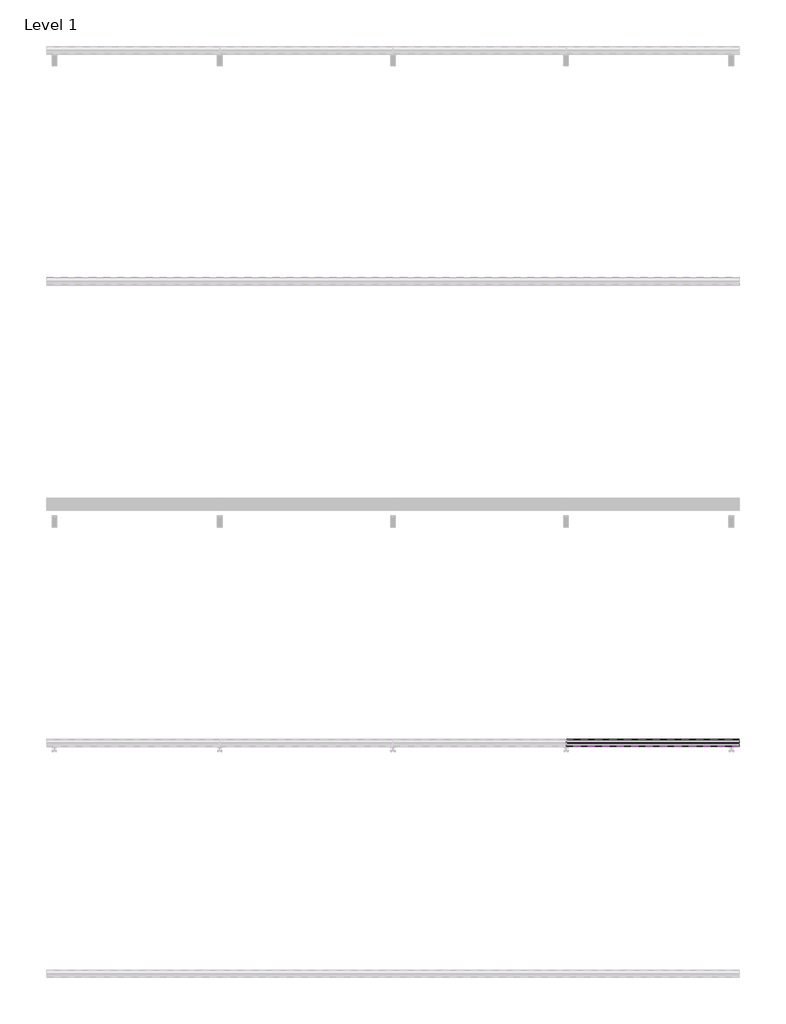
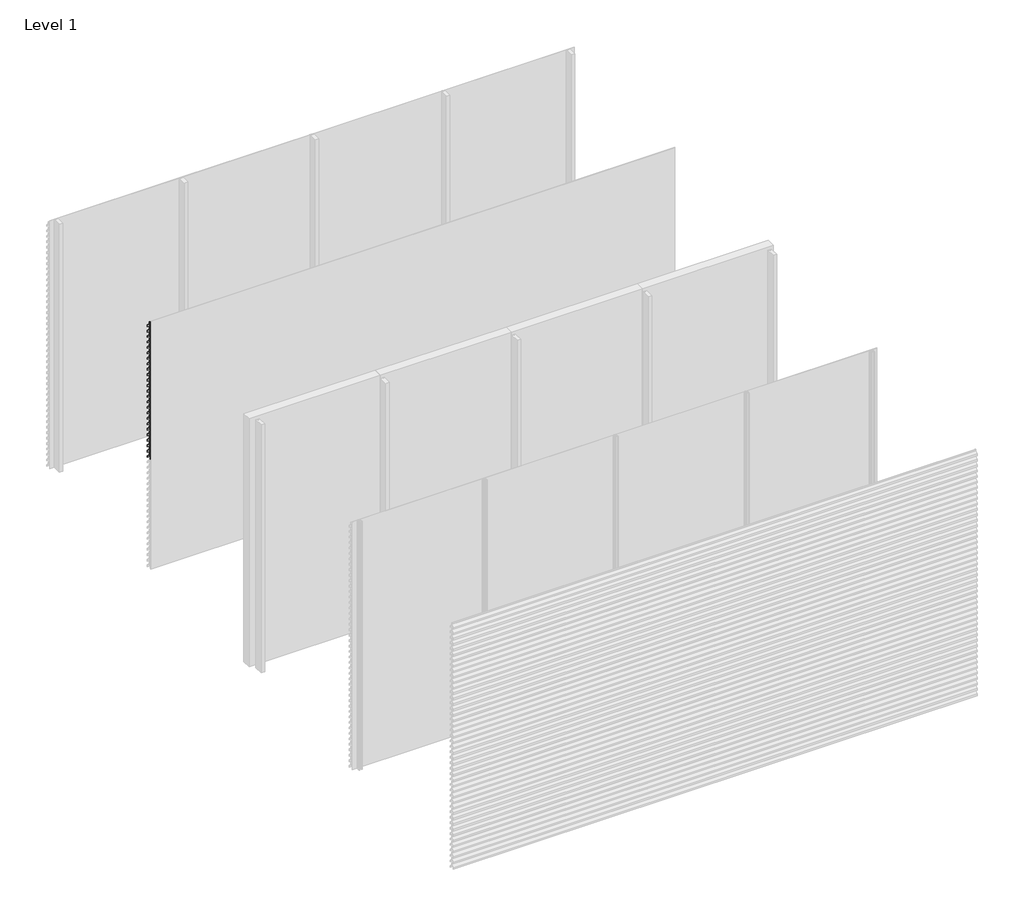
# One storey, part 12 of 35: 69 proxies.
"""IFC4 building model written with IfcOpenShell, lengths in millimetres."""

from ifc_helpers import new_model, si_unit, frame, origin, place, context, project, spatial, polyline, outline, extrude, element, save

model = new_model("IFC4")

# Units and contexts
model_context = context("Model", 3, world=origin())
ifc_project = project(units=[si_unit("LENGTHUNIT", "METRE", prefix="MILLI")], contexts=[model_context])

# Site, building, storey
site = spatial("IfcSite", under=ifc_project)
building = spatial("IfcBuilding", under=site)
storey = spatial("IfcBuildingStorey", under=building, Name="Level 1", Elevation=0.0)

# Proxies
placement = place(None, origin())
element("IfcBuildingElementProxy", 1, Name="Wall Sweeps", at=placement, inside=storey, context=model_context, shape_type="SweptSolid", body=[
    extrude(outline(polyline([(-37936.0, 2916.0), (-37936.0, 2896.0), (-37937.25, 2896.0), (-37937.25, 2915.4342979), (-37968.1138939, 2948.531772), (-37996.7, 2928.4392868), (-37996.7, 2909.6629874), (-37998.0, 2908.8506572), (-37998.0, 2929.1145472), (-37968.537525, 2949.823011), (-37968.537525, 2970.0), (-37967.1772624, 2970.0), (-37967.1772624, 2949.4335207), (-37936.0, 2916.0)])), frame((0.0, 0.0, 0.0), z_axis=(1.0, 0.0, 0.0), x_axis=(0.0, 1.0, 0.0)), (0.0, 0.0, 1.0), 6000.0),
])
element("IfcBuildingElementProxy", 2, Name="Wall Sweeps", at=placement, inside=storey, context=model_context, shape_type="SweptSolid", body=[
    extrude(outline(polyline([(-37936.0, 2850.0), (-37936.0, 2830.0), (-37937.25, 2830.0), (-37937.25, 2849.4342979), (-37968.1138939, 2882.531772), (-37996.7, 2862.4392868), (-37996.7, 2843.6629874), (-37998.0, 2842.8506572), (-37998.0, 2863.1145472), (-37968.537525, 2883.823011), (-37968.537525, 2904.0), (-37967.1772624, 2904.0), (-37967.1772624, 2883.4335207), (-37936.0, 2850.0)])), frame((0.0, 0.0, 0.0), z_axis=(1.0, 0.0, 0.0), x_axis=(0.0, 1.0, 0.0)), (0.0, 0.0, 1.0), 6000.0),
])
element("IfcBuildingElementProxy", 3, Name="Wall Sweeps", at=placement, inside=storey, context=model_context, shape_type="SweptSolid", body=[
    extrude(outline(polyline([(-37936.0, 2784.0), (-37936.0, 2764.0), (-37937.25, 2764.0), (-37937.25, 2783.4342979), (-37968.1138939, 2816.531772), (-37996.7, 2796.4392868), (-37996.7, 2777.6629874), (-37998.0, 2776.8506572), (-37998.0, 2797.1145472), (-37968.537525, 2817.823011), (-37968.537525, 2838.0), (-37967.1772624, 2838.0), (-37967.1772624, 2817.4335207), (-37936.0, 2784.0)])), frame((0.0, 0.0, 0.0), z_axis=(1.0, 0.0, 0.0), x_axis=(0.0, 1.0, 0.0)), (0.0, 0.0, 1.0), 6000.0),
])
element("IfcBuildingElementProxy", 4, Name="Wall Sweeps", at=placement, inside=storey, context=model_context, shape_type="SweptSolid", body=[
    extrude(outline(polyline([(-37936.0, 2718.0), (-37936.0, 2698.0), (-37937.25, 2698.0), (-37937.25, 2717.4342979), (-37968.1138939, 2750.531772), (-37996.7, 2730.4392868), (-37996.7, 2711.6629874), (-37998.0, 2710.8506572), (-37998.0, 2731.1145472), (-37968.537525, 2751.823011), (-37968.537525, 2772.0), (-37967.1772624, 2772.0), (-37967.1772624, 2751.4335207), (-37936.0, 2718.0)])), frame((0.0, 0.0, 0.0), z_axis=(1.0, 0.0, 0.0), x_axis=(0.0, 1.0, 0.0)), (0.0, 0.0, 1.0), 6000.0),
])
element("IfcBuildingElementProxy", 5, Name="Wall Sweeps", at=placement, inside=storey, context=model_context, shape_type="SweptSolid", body=[
    extrude(outline(polyline([(-37936.0, 2652.0), (-37936.0, 2632.0), (-37937.25, 2632.0), (-37937.25, 2651.4342979), (-37968.1138939, 2684.531772), (-37996.7, 2664.4392868), (-37996.7, 2645.6629874), (-37998.0, 2644.8506572), (-37998.0, 2665.1145472), (-37968.537525, 2685.823011), (-37968.537525, 2706.0), (-37967.1772624, 2706.0), (-37967.1772624, 2685.4335207), (-37936.0, 2652.0)])), frame((0.0, 0.0, 0.0), z_axis=(1.0, 0.0, 0.0), x_axis=(0.0, 1.0, 0.0)), (0.0, 0.0, 1.0), 6000.0),
])
element("IfcBuildingElementProxy", 6, Name="Wall Sweeps", at=placement, inside=storey, context=model_context, shape_type="SweptSolid", body=[
    extrude(outline(polyline([(-37936.0, 2586.0), (-37936.0, 2566.0), (-37937.25, 2566.0), (-37937.25, 2585.4342979), (-37968.1138939, 2618.531772), (-37996.7, 2598.4392868), (-37996.7, 2579.6629874), (-37998.0, 2578.8506572), (-37998.0, 2599.1145472), (-37968.537525, 2619.823011), (-37968.537525, 2640.0), (-37967.1772624, 2640.0), (-37967.1772624, 2619.4335207), (-37936.0, 2586.0)])), frame((0.0, 0.0, 0.0), z_axis=(1.0, 0.0, 0.0), x_axis=(0.0, 1.0, 0.0)), (0.0, 0.0, 1.0), 6000.0),
])
element("IfcBuildingElementProxy", 7, Name="Wall Sweeps", at=placement, inside=storey, context=model_context, shape_type="SweptSolid", body=[
    extrude(outline(polyline([(-37936.0, 2520.0), (-37936.0, 2500.0), (-37937.25, 2500.0), (-37937.25, 2519.4342979), (-37968.1138939, 2552.531772), (-37996.7, 2532.4392868), (-37996.7, 2513.6629874), (-37998.0, 2512.8506572), (-37998.0, 2533.1145472), (-37968.537525, 2553.823011), (-37968.537525, 2574.0), (-37967.1772624, 2574.0), (-37967.1772624, 2553.4335207), (-37936.0, 2520.0)])), frame((0.0, 0.0, 0.0), z_axis=(1.0, 0.0, 0.0), x_axis=(0.0, 1.0, 0.0)), (0.0, 0.0, 1.0), 6000.0),
])
element("IfcBuildingElementProxy", 8, Name="Wall Sweeps", at=placement, inside=storey, context=model_context, shape_type="SweptSolid", body=[
    extrude(outline(polyline([(-37936.0, 2454.0), (-37936.0, 2434.0), (-37937.25, 2434.0), (-37937.25, 2453.4342979), (-37968.1138939, 2486.531772), (-37996.7, 2466.4392868), (-37996.7, 2447.6629874), (-37998.0, 2446.8506572), (-37998.0, 2467.1145472), (-37968.537525, 2487.823011), (-37968.537525, 2508.0), (-37967.1772624, 2508.0), (-37967.1772624, 2487.4335207), (-37936.0, 2454.0)])), frame((0.0, 0.0, 0.0), z_axis=(1.0, 0.0, 0.0), x_axis=(0.0, 1.0, 0.0)), (0.0, 0.0, 1.0), 6000.0),
])
element("IfcBuildingElementProxy", 9, Name="Wall Sweeps", at=placement, inside=storey, context=model_context, shape_type="SweptSolid", body=[
    extrude(outline(polyline([(-37936.0, 2388.0), (-37936.0, 2368.0), (-37937.25, 2368.0), (-37937.25, 2387.4342979), (-37968.1138939, 2420.531772), (-37996.7, 2400.4392868), (-37996.7, 2381.6629874), (-37998.0, 2380.8506572), (-37998.0, 2401.1145472), (-37968.537525, 2421.823011), (-37968.537525, 2442.0), (-37967.1772624, 2442.0), (-37967.1772624, 2421.4335207), (-37936.0, 2388.0)])), frame((0.0, 0.0, 0.0), z_axis=(1.0, 0.0, 0.0), x_axis=(0.0, 1.0, 0.0)), (0.0, 0.0, 1.0), 6000.0),
])
element("IfcBuildingElementProxy", 10, Name="Wall Sweeps", at=placement, inside=storey, context=model_context, shape_type="SweptSolid", body=[
    extrude(outline(polyline([(-37936.0, 2322.0), (-37936.0, 2302.0), (-37937.25, 2302.0), (-37937.25, 2321.4342979), (-37968.1138939, 2354.531772), (-37996.7, 2334.4392868), (-37996.7, 2315.6629874), (-37998.0, 2314.8506572), (-37998.0, 2335.1145472), (-37968.537525, 2355.823011), (-37968.537525, 2376.0), (-37967.1772624, 2376.0), (-37967.1772624, 2355.4335207), (-37936.0, 2322.0)])), frame((0.0, 0.0, 0.0), z_axis=(1.0, 0.0, 0.0), x_axis=(0.0, 1.0, 0.0)), (0.0, 0.0, 1.0), 6000.0),
])
element("IfcBuildingElementProxy", 11, Name="Wall Sweeps", at=placement, inside=storey, context=model_context, shape_type="SweptSolid", body=[
    extrude(outline(polyline([(-37936.0, 2256.0), (-37936.0, 2236.0), (-37937.25, 2236.0), (-37937.25, 2255.4342979), (-37968.1138939, 2288.531772), (-37996.7, 2268.4392868), (-37996.7, 2249.6629874), (-37998.0, 2248.8506572), (-37998.0, 2269.1145472), (-37968.537525, 2289.823011), (-37968.537525, 2310.0), (-37967.1772624, 2310.0), (-37967.1772624, 2289.4335207), (-37936.0, 2256.0)])), frame((0.0, 0.0, 0.0), z_axis=(1.0, 0.0, 0.0), x_axis=(0.0, 1.0, 0.0)), (0.0, 0.0, 1.0), 6000.0),
])
element("IfcBuildingElementProxy", 12, Name="Wall Sweeps", at=placement, inside=storey, context=model_context, shape_type="SweptSolid", body=[
    extrude(outline(polyline([(-37936.0, 2190.0), (-37936.0, 2170.0), (-37937.25, 2170.0), (-37937.25, 2189.4342979), (-37968.1138939, 2222.531772), (-37996.7, 2202.4392868), (-37996.7, 2183.6629874), (-37998.0, 2182.8506572), (-37998.0, 2203.1145472), (-37968.537525, 2223.823011), (-37968.537525, 2244.0), (-37967.1772624, 2244.0), (-37967.1772624, 2223.4335207), (-37936.0, 2190.0)])), frame((0.0, 0.0, 0.0), z_axis=(1.0, 0.0, 0.0), x_axis=(0.0, 1.0, 0.0)), (0.0, 0.0, 1.0), 6000.0),
])
element("IfcBuildingElementProxy", 13, Name="Wall Sweeps", at=placement, inside=storey, context=model_context, shape_type="SweptSolid", body=[
    extrude(outline(polyline([(-37936.0, 2124.0), (-37936.0, 2104.0), (-37937.25, 2104.0), (-37937.25, 2123.4342979), (-37968.1138939, 2156.531772), (-37996.7, 2136.4392868), (-37996.7, 2117.6629874), (-37998.0, 2116.8506572), (-37998.0, 2137.1145472), (-37968.537525, 2157.823011), (-37968.537525, 2178.0), (-37967.1772624, 2178.0), (-37967.1772624, 2157.4335207), (-37936.0, 2124.0)])), frame((0.0, 0.0, 0.0), z_axis=(1.0, 0.0, 0.0), x_axis=(0.0, 1.0, 0.0)), (0.0, 0.0, 1.0), 6000.0),
])
element("IfcBuildingElementProxy", 14, Name="Wall Sweeps", at=placement, inside=storey, context=model_context, shape_type="SweptSolid", body=[
    extrude(outline(polyline([(-37936.0, 2058.0), (-37936.0, 2038.0), (-37937.25, 2038.0), (-37937.25, 2057.4342979), (-37968.1138939, 2090.531772), (-37996.7, 2070.4392868), (-37996.7, 2051.6629874), (-37998.0, 2050.8506572), (-37998.0, 2071.1145472), (-37968.537525, 2091.823011), (-37968.537525, 2112.0), (-37967.1772624, 2112.0), (-37967.1772624, 2091.4335207), (-37936.0, 2058.0)])), frame((0.0, 0.0, 0.0), z_axis=(1.0, 0.0, 0.0), x_axis=(0.0, 1.0, 0.0)), (0.0, 0.0, 1.0), 6000.0),
])
element("IfcBuildingElementProxy", 15, Name="Wall Sweeps", at=placement, inside=storey, context=model_context, shape_type="SweptSolid", body=[
    extrude(outline(polyline([(-37936.0, 1992.0), (-37936.0, 1972.0), (-37937.25, 1972.0), (-37937.25, 1991.4342979), (-37968.1138939, 2024.531772), (-37996.7, 2004.4392868), (-37996.7, 1985.6629874), (-37998.0, 1984.8506572), (-37998.0, 2005.1145472), (-37968.537525, 2025.823011), (-37968.537525, 2046.0), (-37967.1772624, 2046.0), (-37967.1772624, 2025.4335207), (-37936.0, 1992.0)])), frame((0.0, 0.0, 0.0), z_axis=(1.0, 0.0, 0.0), x_axis=(0.0, 1.0, 0.0)), (0.0, 0.0, 1.0), 6000.0),
])
element("IfcBuildingElementProxy", 16, Name="Wall Sweeps", at=placement, inside=storey, context=model_context, shape_type="SweptSolid", body=[
    extrude(outline(polyline([(-37936.0, 1926.0), (-37936.0, 1906.0), (-37937.25, 1906.0), (-37937.25, 1925.4342979), (-37968.1138939, 1958.531772), (-37996.7, 1938.4392868), (-37996.7, 1919.6629874), (-37998.0, 1918.8506572), (-37998.0, 1939.1145472), (-37968.537525, 1959.823011), (-37968.537525, 1980.0), (-37967.1772624, 1980.0), (-37967.1772624, 1959.4335207), (-37936.0, 1926.0)])), frame((0.0, 0.0, 0.0), z_axis=(1.0, 0.0, 0.0), x_axis=(0.0, 1.0, 0.0)), (0.0, 0.0, 1.0), 6000.0),
])
element("IfcBuildingElementProxy", 17, Name="Wall Sweeps", at=placement, inside=storey, context=model_context, shape_type="SweptSolid", body=[
    extrude(outline(polyline([(-37936.0, 1860.0), (-37936.0, 1840.0), (-37937.25, 1840.0), (-37937.25, 1859.4342979), (-37968.1138939, 1892.531772), (-37996.7, 1872.4392868), (-37996.7, 1853.6629874), (-37998.0, 1852.8506572), (-37998.0, 1873.1145472), (-37968.537525, 1893.823011), (-37968.537525, 1914.0), (-37967.1772624, 1914.0), (-37967.1772624, 1893.4335207), (-37936.0, 1860.0)])), frame((0.0, 0.0, 0.0), z_axis=(1.0, 0.0, 0.0), x_axis=(0.0, 1.0, 0.0)), (0.0, 0.0, 1.0), 6000.0),
])
element("IfcBuildingElementProxy", 18, Name="Wall Sweeps", at=placement, inside=storey, context=model_context, shape_type="SweptSolid", body=[
    extrude(outline(polyline([(-37936.0, 1794.0), (-37936.0, 1774.0), (-37937.25, 1774.0), (-37937.25, 1793.4342979), (-37968.1138939, 1826.531772), (-37996.7, 1806.4392868), (-37996.7, 1787.6629874), (-37998.0, 1786.8506572), (-37998.0, 1807.1145472), (-37968.537525, 1827.823011), (-37968.537525, 1848.0), (-37967.1772624, 1848.0), (-37967.1772624, 1827.4335207), (-37936.0, 1794.0)])), frame((0.0, 0.0, 0.0), z_axis=(1.0, 0.0, 0.0), x_axis=(0.0, 1.0, 0.0)), (0.0, 0.0, 1.0), 6000.0),
])
element("IfcBuildingElementProxy", 19, Name="Wall Sweeps", at=placement, inside=storey, context=model_context, shape_type="SweptSolid", body=[
    extrude(outline(polyline([(-37936.0, 1728.0), (-37936.0, 1708.0), (-37937.25, 1708.0), (-37937.25, 1727.4342979), (-37968.1138939, 1760.531772), (-37996.7, 1740.4392868), (-37996.7, 1721.6629874), (-37998.0, 1720.8506572), (-37998.0, 1741.1145472), (-37968.537525, 1761.823011), (-37968.537525, 1782.0), (-37967.1772624, 1782.0), (-37967.1772624, 1761.4335207), (-37936.0, 1728.0)])), frame((0.0, 0.0, 0.0), z_axis=(1.0, 0.0, 0.0), x_axis=(0.0, 1.0, 0.0)), (0.0, 0.0, 1.0), 6000.0),
])
element("IfcBuildingElementProxy", 20, Name="Wall Sweeps", at=placement, inside=storey, context=model_context, shape_type="SweptSolid", body=[
    extrude(outline(polyline([(-37936.0, 1662.0), (-37936.0, 1642.0), (-37937.25, 1642.0), (-37937.25, 1661.4342979), (-37968.1138939, 1694.531772), (-37996.7, 1674.4392868), (-37996.7, 1655.6629874), (-37998.0, 1654.8506572), (-37998.0, 1675.1145472), (-37968.537525, 1695.823011), (-37968.537525, 1716.0), (-37967.1772624, 1716.0), (-37967.1772624, 1695.4335207), (-37936.0, 1662.0)])), frame((0.0, 0.0, 0.0), z_axis=(1.0, 0.0, 0.0), x_axis=(0.0, 1.0, 0.0)), (0.0, 0.0, 1.0), 6000.0),
])
element("IfcBuildingElementProxy", 21, Name="Wall Sweeps", at=placement, inside=storey, context=model_context, shape_type="SweptSolid", body=[
    extrude(outline(polyline([(-37936.0, 1596.0), (-37936.0, 1576.0), (-37937.25, 1576.0), (-37937.25, 1595.4342979), (-37968.1138939, 1628.531772), (-37996.7, 1608.4392868), (-37996.7, 1589.6629874), (-37998.0, 1588.8506572), (-37998.0, 1609.1145472), (-37968.537525, 1629.823011), (-37968.537525, 1650.0), (-37967.1772624, 1650.0), (-37967.1772624, 1629.4335207), (-37936.0, 1596.0)])), frame((0.0, 0.0, 0.0), z_axis=(1.0, 0.0, 0.0), x_axis=(0.0, 1.0, 0.0)), (0.0, 0.0, 1.0), 6000.0),
])
element("IfcBuildingElementProxy", 22, Name="Wall Sweeps", at=placement, inside=storey, context=model_context, shape_type="SweptSolid", body=[
    extrude(outline(polyline([(-37936.0, 1530.0), (-37936.0, 1510.0), (-37937.25, 1510.0), (-37937.25, 1529.4342979), (-37968.1138939, 1562.531772), (-37996.7, 1542.4392868), (-37996.7, 1523.6629874), (-37998.0, 1522.8506572), (-37998.0, 1543.1145472), (-37968.537525, 1563.823011), (-37968.537525, 1584.0), (-37967.1772624, 1584.0), (-37967.1772624, 1563.4335207), (-37936.0, 1530.0)])), frame((0.0, 0.0, 0.0), z_axis=(1.0, 0.0, 0.0), x_axis=(0.0, 1.0, 0.0)), (0.0, 0.0, 1.0), 6000.0),
])
element("IfcBuildingElementProxy", 23, Name="Wall Sweeps", at=placement, inside=storey, context=model_context, shape_type="SweptSolid", body=[
    extrude(outline(polyline([(-37936.0, 1464.0), (-37936.0, 1444.0), (-37937.25, 1444.0), (-37937.25, 1463.4342979), (-37968.1138939, 1496.531772), (-37996.7, 1476.4392868), (-37996.7, 1457.6629874), (-37998.0, 1456.8506572), (-37998.0, 1477.1145472), (-37968.537525, 1497.823011), (-37968.537525, 1518.0), (-37967.1772624, 1518.0), (-37967.1772624, 1497.4335207), (-37936.0, 1464.0)])), frame((0.0, 0.0, 0.0), z_axis=(1.0, 0.0, 0.0), x_axis=(0.0, 1.0, 0.0)), (0.0, 0.0, 1.0), 6000.0),
])
element("IfcBuildingElementProxy", 24, Name="Wall Sweeps", at=placement, inside=storey, context=model_context, shape_type="SweptSolid", body=[
    extrude(outline(polyline([(-37936.0, 1398.0), (-37936.0, 1378.0), (-37937.25, 1378.0), (-37937.25, 1397.4342979), (-37968.1138939, 1430.531772), (-37996.7, 1410.4392868), (-37996.7, 1391.6629874), (-37998.0, 1390.8506572), (-37998.0, 1411.1145472), (-37968.537525, 1431.823011), (-37968.537525, 1452.0), (-37967.1772624, 1452.0), (-37967.1772624, 1431.4335207), (-37936.0, 1398.0)])), frame((0.0, 0.0, 0.0), z_axis=(1.0, 0.0, 0.0), x_axis=(0.0, 1.0, 0.0)), (0.0, 0.0, 1.0), 6000.0),
])
element("IfcBuildingElementProxy", 25, Name="Wall Sweeps", at=placement, inside=storey, context=model_context, shape_type="SweptSolid", body=[
    extrude(outline(polyline([(-37936.0, 1332.0), (-37936.0, 1312.0), (-37937.25, 1312.0), (-37937.25, 1331.4342979), (-37968.1138939, 1364.531772), (-37996.7, 1344.4392868), (-37996.7, 1325.6629874), (-37998.0, 1324.8506572), (-37998.0, 1345.1145472), (-37968.537525, 1365.823011), (-37968.537525, 1386.0), (-37967.1772624, 1386.0), (-37967.1772624, 1365.4335207), (-37936.0, 1332.0)])), frame((0.0, 0.0, 0.0), z_axis=(1.0, 0.0, 0.0), x_axis=(0.0, 1.0, 0.0)), (0.0, 0.0, 1.0), 6000.0),
])
element("IfcBuildingElementProxy", 26, Name="Wall Sweeps", at=placement, inside=storey, context=model_context, shape_type="SweptSolid", body=[
    extrude(outline(polyline([(-41936.0, 2850.0), (-41936.0, 2830.0), (-41937.25, 2830.0), (-41937.25, 2849.4342979), (-41968.1138939, 2882.531772), (-41996.7, 2862.4392868), (-41996.7, 2843.6629874), (-41998.0, 2842.8506572), (-41998.0, 2863.1145472), (-41968.537525, 2883.823011), (-41968.537525, 2904.0), (-41967.1772624, 2904.0), (-41967.1772624, 2883.4335207), (-41936.0, 2850.0)])), frame((4500.0, 0.0, 0.0), z_axis=(1.0, 0.0, 0.0), x_axis=(0.0, 1.0, 0.0)), (0.0, 0.0, 1.0), 1500.0),
])
element("IfcBuildingElementProxy", 27, Name="Wall Sweeps", at=placement, inside=storey, context=model_context, shape_type="SweptSolid", body=[
    extrude(outline(polyline([(-41936.0, 2784.0), (-41936.0, 2764.0), (-41937.25, 2764.0), (-41937.25, 2783.4342979), (-41968.1138939, 2816.531772), (-41996.7, 2796.4392868), (-41996.7, 2777.6629874), (-41998.0, 2776.8506572), (-41998.0, 2797.1145472), (-41968.537525, 2817.823011), (-41968.537525, 2838.0), (-41967.1772624, 2838.0), (-41967.1772624, 2817.4335207), (-41936.0, 2784.0)])), frame((4500.0, 0.0, 0.0), z_axis=(1.0, 0.0, 0.0), x_axis=(0.0, 1.0, 0.0)), (0.0, 0.0, 1.0), 1500.0),
])
element("IfcBuildingElementProxy", 28, Name="Wall Sweeps", at=placement, inside=storey, context=model_context, shape_type="SweptSolid", body=[
    extrude(outline(polyline([(-41936.0, 2718.0), (-41936.0, 2698.0), (-41937.25, 2698.0), (-41937.25, 2717.4342979), (-41968.1138939, 2750.531772), (-41996.7, 2730.4392868), (-41996.7, 2711.6629874), (-41998.0, 2710.8506572), (-41998.0, 2731.1145472), (-41968.537525, 2751.823011), (-41968.537525, 2772.0), (-41967.1772624, 2772.0), (-41967.1772624, 2751.4335207), (-41936.0, 2718.0)])), frame((4500.0, 0.0, 0.0), z_axis=(1.0, 0.0, 0.0), x_axis=(0.0, 1.0, 0.0)), (0.0, 0.0, 1.0), 1500.0),
])
element("IfcBuildingElementProxy", 29, Name="Wall Sweeps", at=placement, inside=storey, context=model_context, shape_type="SweptSolid", body=[
    extrude(outline(polyline([(-41936.0, 2652.0), (-41936.0, 2632.0), (-41937.25, 2632.0), (-41937.25, 2651.4342979), (-41968.1138939, 2684.531772), (-41996.7, 2664.4392868), (-41996.7, 2645.6629874), (-41998.0, 2644.8506572), (-41998.0, 2665.1145472), (-41968.537525, 2685.823011), (-41968.537525, 2706.0), (-41967.1772624, 2706.0), (-41967.1772624, 2685.4335207), (-41936.0, 2652.0)])), frame((4500.0, 0.0, 0.0), z_axis=(1.0, 0.0, 0.0), x_axis=(0.0, 1.0, 0.0)), (0.0, 0.0, 1.0), 1500.0),
])
element("IfcBuildingElementProxy", 30, Name="Wall Sweeps", at=placement, inside=storey, context=model_context, shape_type="SweptSolid", body=[
    extrude(outline(polyline([(-41936.0, 2586.0), (-41936.0, 2566.0), (-41937.25, 2566.0), (-41937.25, 2585.4342979), (-41968.1138939, 2618.531772), (-41996.7, 2598.4392868), (-41996.7, 2579.6629874), (-41998.0, 2578.8506572), (-41998.0, 2599.1145472), (-41968.537525, 2619.823011), (-41968.537525, 2640.0), (-41967.1772624, 2640.0), (-41967.1772624, 2619.4335207), (-41936.0, 2586.0)])), frame((4500.0, 0.0, 0.0), z_axis=(1.0, 0.0, 0.0), x_axis=(0.0, 1.0, 0.0)), (0.0, 0.0, 1.0), 1500.0),
])
element("IfcBuildingElementProxy", 31, Name="Wall Sweeps", at=placement, inside=storey, context=model_context, shape_type="SweptSolid", body=[
    extrude(outline(polyline([(-41936.0, 2520.0), (-41936.0, 2500.0), (-41937.25, 2500.0), (-41937.25, 2519.4342979), (-41968.1138939, 2552.531772), (-41996.7, 2532.4392868), (-41996.7, 2513.6629874), (-41998.0, 2512.8506572), (-41998.0, 2533.1145472), (-41968.537525, 2553.823011), (-41968.537525, 2574.0), (-41967.1772624, 2574.0), (-41967.1772624, 2553.4335207), (-41936.0, 2520.0)])), frame((4500.0, 0.0, 0.0), z_axis=(1.0, 0.0, 0.0), x_axis=(0.0, 1.0, 0.0)), (0.0, 0.0, 1.0), 1500.0),
])
element("IfcBuildingElementProxy", 32, Name="Wall Sweeps", at=placement, inside=storey, context=model_context, shape_type="SweptSolid", body=[
    extrude(outline(polyline([(-41936.0, 2454.0), (-41936.0, 2434.0), (-41937.25, 2434.0), (-41937.25, 2453.4342979), (-41968.1138939, 2486.531772), (-41996.7, 2466.4392868), (-41996.7, 2447.6629874), (-41998.0, 2446.8506572), (-41998.0, 2467.1145472), (-41968.537525, 2487.823011), (-41968.537525, 2508.0), (-41967.1772624, 2508.0), (-41967.1772624, 2487.4335207), (-41936.0, 2454.0)])), frame((4500.0, 0.0, 0.0), z_axis=(1.0, 0.0, 0.0), x_axis=(0.0, 1.0, 0.0)), (0.0, 0.0, 1.0), 1500.0),
])
element("IfcBuildingElementProxy", 33, Name="Wall Sweeps", at=placement, inside=storey, context=model_context, shape_type="SweptSolid", body=[
    extrude(outline(polyline([(-41936.0, 2388.0), (-41936.0, 2368.0), (-41937.25, 2368.0), (-41937.25, 2387.4342979), (-41968.1138939, 2420.531772), (-41996.7, 2400.4392868), (-41996.7, 2381.6629874), (-41998.0, 2380.8506572), (-41998.0, 2401.1145472), (-41968.537525, 2421.823011), (-41968.537525, 2442.0), (-41967.1772624, 2442.0), (-41967.1772624, 2421.4335207), (-41936.0, 2388.0)])), frame((4500.0, 0.0, 0.0), z_axis=(1.0, 0.0, 0.0), x_axis=(0.0, 1.0, 0.0)), (0.0, 0.0, 1.0), 1500.0),
])
element("IfcBuildingElementProxy", 34, Name="Wall Sweeps", at=placement, inside=storey, context=model_context, shape_type="SweptSolid", body=[
    extrude(outline(polyline([(-41936.0, 2322.0), (-41936.0, 2302.0), (-41937.25, 2302.0), (-41937.25, 2321.4342979), (-41968.1138939, 2354.531772), (-41996.7, 2334.4392868), (-41996.7, 2315.6629874), (-41998.0, 2314.8506572), (-41998.0, 2335.1145472), (-41968.537525, 2355.823011), (-41968.537525, 2376.0), (-41967.1772624, 2376.0), (-41967.1772624, 2355.4335207), (-41936.0, 2322.0)])), frame((4500.0, 0.0, 0.0), z_axis=(1.0, 0.0, 0.0), x_axis=(0.0, 1.0, 0.0)), (0.0, 0.0, 1.0), 1500.0),
])
element("IfcBuildingElementProxy", 35, Name="Wall Sweeps", at=placement, inside=storey, context=model_context, shape_type="SweptSolid", body=[
    extrude(outline(polyline([(-41936.0, 2256.0), (-41936.0, 2236.0), (-41937.25, 2236.0), (-41937.25, 2255.4342979), (-41968.1138939, 2288.531772), (-41996.7, 2268.4392868), (-41996.7, 2249.6629874), (-41998.0, 2248.8506572), (-41998.0, 2269.1145472), (-41968.537525, 2289.823011), (-41968.537525, 2310.0), (-41967.1772624, 2310.0), (-41967.1772624, 2289.4335207), (-41936.0, 2256.0)])), frame((4500.0, 0.0, 0.0), z_axis=(1.0, 0.0, 0.0), x_axis=(0.0, 1.0, 0.0)), (0.0, 0.0, 1.0), 1500.0),
])
element("IfcBuildingElementProxy", 36, Name="Wall Sweeps", at=placement, inside=storey, context=model_context, shape_type="SweptSolid", body=[
    extrude(outline(polyline([(-41936.0, 2190.0), (-41936.0, 2170.0), (-41937.25, 2170.0), (-41937.25, 2189.4342979), (-41968.1138939, 2222.531772), (-41996.7, 2202.4392868), (-41996.7, 2183.6629874), (-41998.0, 2182.8506572), (-41998.0, 2203.1145472), (-41968.537525, 2223.823011), (-41968.537525, 2244.0), (-41967.1772624, 2244.0), (-41967.1772624, 2223.4335207), (-41936.0, 2190.0)])), frame((4500.0, 0.0, 0.0), z_axis=(1.0, 0.0, 0.0), x_axis=(0.0, 1.0, 0.0)), (0.0, 0.0, 1.0), 1500.0),
])
element("IfcBuildingElementProxy", 37, Name="Wall Sweeps", at=placement, inside=storey, context=model_context, shape_type="SweptSolid", body=[
    extrude(outline(polyline([(-41936.0, 2124.0), (-41936.0, 2104.0), (-41937.25, 2104.0), (-41937.25, 2123.4342979), (-41968.1138939, 2156.531772), (-41996.7, 2136.4392868), (-41996.7, 2117.6629874), (-41998.0, 2116.8506572), (-41998.0, 2137.1145472), (-41968.537525, 2157.823011), (-41968.537525, 2178.0), (-41967.1772624, 2178.0), (-41967.1772624, 2157.4335207), (-41936.0, 2124.0)])), frame((4500.0, 0.0, 0.0), z_axis=(1.0, 0.0, 0.0), x_axis=(0.0, 1.0, 0.0)), (0.0, 0.0, 1.0), 1500.0),
])
element("IfcBuildingElementProxy", 38, Name="Wall Sweeps", at=placement, inside=storey, context=model_context, shape_type="SweptSolid", body=[
    extrude(outline(polyline([(-41936.0, 2058.0), (-41936.0, 2038.0), (-41937.25, 2038.0), (-41937.25, 2057.4342979), (-41968.1138939, 2090.531772), (-41996.7, 2070.4392868), (-41996.7, 2051.6629874), (-41998.0, 2050.8506572), (-41998.0, 2071.1145472), (-41968.537525, 2091.823011), (-41968.537525, 2112.0), (-41967.1772624, 2112.0), (-41967.1772624, 2091.4335207), (-41936.0, 2058.0)])), frame((4500.0, 0.0, 0.0), z_axis=(1.0, 0.0, 0.0), x_axis=(0.0, 1.0, 0.0)), (0.0, 0.0, 1.0), 1500.0),
])
element("IfcBuildingElementProxy", 39, Name="Wall Sweeps", at=placement, inside=storey, context=model_context, shape_type="SweptSolid", body=[
    extrude(outline(polyline([(-41936.0, 1992.0), (-41936.0, 1972.0), (-41937.25, 1972.0), (-41937.25, 1991.4342979), (-41968.1138939, 2024.531772), (-41996.7, 2004.4392868), (-41996.7, 1985.6629874), (-41998.0, 1984.8506572), (-41998.0, 2005.1145472), (-41968.537525, 2025.823011), (-41968.537525, 2046.0), (-41967.1772624, 2046.0), (-41967.1772624, 2025.4335207), (-41936.0, 1992.0)])), frame((4500.0, 0.0, 0.0), z_axis=(1.0, 0.0, 0.0), x_axis=(0.0, 1.0, 0.0)), (0.0, 0.0, 1.0), 1500.0),
])
element("IfcBuildingElementProxy", 40, Name="Wall Sweeps", at=placement, inside=storey, context=model_context, shape_type="SweptSolid", body=[
    extrude(outline(polyline([(-41936.0, 1926.0), (-41936.0, 1906.0), (-41937.25, 1906.0), (-41937.25, 1925.4342979), (-41968.1138939, 1958.531772), (-41996.7, 1938.4392868), (-41996.7, 1919.6629874), (-41998.0, 1918.8506572), (-41998.0, 1939.1145472), (-41968.537525, 1959.823011), (-41968.537525, 1980.0), (-41967.1772624, 1980.0), (-41967.1772624, 1959.4335207), (-41936.0, 1926.0)])), frame((4500.0, 0.0, 0.0), z_axis=(1.0, 0.0, 0.0), x_axis=(0.0, 1.0, 0.0)), (0.0, 0.0, 1.0), 1500.0),
])
element("IfcBuildingElementProxy", 41, Name="Wall Sweeps", at=placement, inside=storey, context=model_context, shape_type="SweptSolid", body=[
    extrude(outline(polyline([(-41936.0, 1860.0), (-41936.0, 1840.0), (-41937.25, 1840.0), (-41937.25, 1859.4342979), (-41968.1138939, 1892.531772), (-41996.7, 1872.4392868), (-41996.7, 1853.6629874), (-41998.0, 1852.8506572), (-41998.0, 1873.1145472), (-41968.537525, 1893.823011), (-41968.537525, 1914.0), (-41967.1772624, 1914.0), (-41967.1772624, 1893.4335207), (-41936.0, 1860.0)])), frame((4500.0, 0.0, 0.0), z_axis=(1.0, 0.0, 0.0), x_axis=(0.0, 1.0, 0.0)), (0.0, 0.0, 1.0), 1500.0),
])
element("IfcBuildingElementProxy", 42, Name="Wall Sweeps", at=placement, inside=storey, context=model_context, shape_type="SweptSolid", body=[
    extrude(outline(polyline([(-41936.0, 1794.0), (-41936.0, 1774.0), (-41937.25, 1774.0), (-41937.25, 1793.4342979), (-41968.1138939, 1826.531772), (-41996.7, 1806.4392868), (-41996.7, 1787.6629874), (-41998.0, 1786.8506572), (-41998.0, 1807.1145472), (-41968.537525, 1827.823011), (-41968.537525, 1848.0), (-41967.1772624, 1848.0), (-41967.1772624, 1827.4335207), (-41936.0, 1794.0)])), frame((4500.0, 0.0, 0.0), z_axis=(1.0, 0.0, 0.0), x_axis=(0.0, 1.0, 0.0)), (0.0, 0.0, 1.0), 1500.0),
])
element("IfcBuildingElementProxy", 43, Name="Wall Sweeps", at=placement, inside=storey, context=model_context, shape_type="SweptSolid", body=[
    extrude(outline(polyline([(-41936.0, 1728.0), (-41936.0, 1708.0), (-41937.25, 1708.0), (-41937.25, 1727.4342979), (-41968.1138939, 1760.531772), (-41996.7, 1740.4392868), (-41996.7, 1721.6629874), (-41998.0, 1720.8506572), (-41998.0, 1741.1145472), (-41968.537525, 1761.823011), (-41968.537525, 1782.0), (-41967.1772624, 1782.0), (-41967.1772624, 1761.4335207), (-41936.0, 1728.0)])), frame((4500.0, 0.0, 0.0), z_axis=(1.0, 0.0, 0.0), x_axis=(0.0, 1.0, 0.0)), (0.0, 0.0, 1.0), 1500.0),
])
element("IfcBuildingElementProxy", 44, Name="Wall Sweeps", at=placement, inside=storey, context=model_context, shape_type="SweptSolid", body=[
    extrude(outline(polyline([(-41936.0, 1662.0), (-41936.0, 1642.0), (-41937.25, 1642.0), (-41937.25, 1661.4342979), (-41968.1138939, 1694.531772), (-41996.7, 1674.4392868), (-41996.7, 1655.6629874), (-41998.0, 1654.8506572), (-41998.0, 1675.1145472), (-41968.537525, 1695.823011), (-41968.537525, 1716.0), (-41967.1772624, 1716.0), (-41967.1772624, 1695.4335207), (-41936.0, 1662.0)])), frame((4500.0, 0.0, 0.0), z_axis=(1.0, 0.0, 0.0), x_axis=(0.0, 1.0, 0.0)), (0.0, 0.0, 1.0), 1500.0),
])
element("IfcBuildingElementProxy", 45, Name="Wall Sweeps", at=placement, inside=storey, context=model_context, shape_type="SweptSolid", body=[
    extrude(outline(polyline([(-41936.0, 1596.0), (-41936.0, 1576.0), (-41937.25, 1576.0), (-41937.25, 1595.4342979), (-41968.1138939, 1628.531772), (-41996.7, 1608.4392868), (-41996.7, 1589.6629874), (-41998.0, 1588.8506572), (-41998.0, 1609.1145472), (-41968.537525, 1629.823011), (-41968.537525, 1650.0), (-41967.1772624, 1650.0), (-41967.1772624, 1629.4335207), (-41936.0, 1596.0)])), frame((4500.0, 0.0, 0.0), z_axis=(1.0, 0.0, 0.0), x_axis=(0.0, 1.0, 0.0)), (0.0, 0.0, 1.0), 1500.0),
])
element("IfcBuildingElementProxy", 46, Name="Wall Sweeps", at=placement, inside=storey, context=model_context, shape_type="SweptSolid", body=[
    extrude(outline(polyline([(-41936.0, 1530.0), (-41936.0, 1510.0), (-41937.25, 1510.0), (-41937.25, 1529.4342979), (-41968.1138939, 1562.531772), (-41996.7, 1542.4392868), (-41996.7, 1523.6629874), (-41998.0, 1522.8506572), (-41998.0, 1543.1145472), (-41968.537525, 1563.823011), (-41968.537525, 1584.0), (-41967.1772624, 1584.0), (-41967.1772624, 1563.4335207), (-41936.0, 1530.0)])), frame((4500.0, 0.0, 0.0), z_axis=(1.0, 0.0, 0.0), x_axis=(0.0, 1.0, 0.0)), (0.0, 0.0, 1.0), 1500.0),
])
element("IfcBuildingElementProxy", 47, Name="Wall Sweeps", at=placement, inside=storey, context=model_context, shape_type="SweptSolid", body=[
    extrude(outline(polyline([(-41936.0, 1464.0), (-41936.0, 1444.0), (-41937.25, 1444.0), (-41937.25, 1463.4342979), (-41968.1138939, 1496.531772), (-41996.7, 1476.4392868), (-41996.7, 1457.6629874), (-41998.0, 1456.8506572), (-41998.0, 1477.1145472), (-41968.537525, 1497.823011), (-41968.537525, 1518.0), (-41967.1772624, 1518.0), (-41967.1772624, 1497.4335207), (-41936.0, 1464.0)])), frame((4500.0, 0.0, 0.0), z_axis=(1.0, 0.0, 0.0), x_axis=(0.0, 1.0, 0.0)), (0.0, 0.0, 1.0), 1500.0),
])
element("IfcBuildingElementProxy", 48, Name="Wall Sweeps", at=placement, inside=storey, context=model_context, shape_type="SweptSolid", body=[
    extrude(outline(polyline([(-41936.0, 1398.0), (-41936.0, 1378.0), (-41937.25, 1378.0), (-41937.25, 1397.4342979), (-41968.1138939, 1430.531772), (-41996.7, 1410.4392868), (-41996.7, 1391.6629874), (-41998.0, 1390.8506572), (-41998.0, 1411.1145472), (-41968.537525, 1431.823011), (-41968.537525, 1452.0), (-41967.1772624, 1452.0), (-41967.1772624, 1431.4335207), (-41936.0, 1398.0)])), frame((4500.0, 0.0, 0.0), z_axis=(1.0, 0.0, 0.0), x_axis=(0.0, 1.0, 0.0)), (0.0, 0.0, 1.0), 1500.0),
])
element("IfcBuildingElementProxy", 49, Name="Wall Sweeps", at=placement, inside=storey, context=model_context, shape_type="SweptSolid", body=[
    extrude(outline(polyline([(-41936.0, 1332.0), (-41936.0, 1312.0), (-41937.25, 1312.0), (-41937.25, 1331.4342979), (-41968.1138939, 1364.531772), (-41996.7, 1344.4392868), (-41996.7, 1325.6629874), (-41998.0, 1324.8506572), (-41998.0, 1345.1145472), (-41968.537525, 1365.823011), (-41968.537525, 1386.0), (-41967.1772624, 1386.0), (-41967.1772624, 1365.4335207), (-41936.0, 1332.0)])), frame((4500.0, 0.0, 0.0), z_axis=(1.0, 0.0, 0.0), x_axis=(0.0, 1.0, 0.0)), (0.0, 0.0, 1.0), 1500.0),
])
element("IfcBuildingElementProxy", 50, Name="Wall Sweeps", at=placement, inside=storey, context=model_context, shape_type="SweptSolid", body=[
    extrude(outline(polyline([(-41936.0, 1266.0), (-41936.0, 1246.0), (-41937.25, 1246.0), (-41937.25, 1265.4342979), (-41968.1138939, 1298.531772), (-41996.7, 1278.4392868), (-41996.7, 1259.6629874), (-41998.0, 1258.8506572), (-41998.0, 1279.1145472), (-41968.537525, 1299.823011), (-41968.537525, 1320.0), (-41967.1772624, 1320.0), (-41967.1772624, 1299.4335207), (-41936.0, 1266.0)])), frame((4500.0, 0.0, 0.0), z_axis=(1.0, 0.0, 0.0), x_axis=(0.0, 1.0, 0.0)), (0.0, 0.0, 1.0), 1500.0),
])
element("IfcBuildingElementProxy", 51, Name="Wall Sweeps", at=placement, inside=storey, context=model_context, shape_type="SweptSolid", body=[
    extrude(outline(polyline([(-41936.0, 1200.0), (-41936.0, 1180.0), (-41937.25, 1180.0), (-41937.25, 1199.4342979), (-41968.1138939, 1232.531772), (-41996.7, 1212.4392868), (-41996.7, 1193.6629874), (-41998.0, 1192.8506572), (-41998.0, 1213.1145472), (-41968.537525, 1233.823011), (-41968.537525, 1254.0), (-41967.1772624, 1254.0), (-41967.1772624, 1233.4335207), (-41936.0, 1200.0)])), frame((4500.0, 0.0, 0.0), z_axis=(1.0, 0.0, 0.0), x_axis=(0.0, 1.0, 0.0)), (0.0, 0.0, 1.0), 1500.0),
])
element("IfcBuildingElementProxy", 52, Name="Wall Sweeps", at=placement, inside=storey, context=model_context, shape_type="SweptSolid", body=[
    extrude(outline(polyline([(-41936.0, 1134.0), (-41936.0, 1114.0), (-41937.25, 1114.0), (-41937.25, 1133.4342979), (-41968.1138939, 1166.531772), (-41996.7, 1146.4392868), (-41996.7, 1127.6629874), (-41998.0, 1126.8506572), (-41998.0, 1147.1145472), (-41968.537525, 1167.823011), (-41968.537525, 1188.0), (-41967.1772624, 1188.0), (-41967.1772624, 1167.4335207), (-41936.0, 1134.0)])), frame((4500.0, 0.0, 0.0), z_axis=(1.0, 0.0, 0.0), x_axis=(0.0, 1.0, 0.0)), (0.0, 0.0, 1.0), 1500.0),
])
element("IfcBuildingElementProxy", 53, Name="Wall Sweeps", at=placement, inside=storey, context=model_context, shape_type="SweptSolid", body=[
    extrude(outline(polyline([(-41936.0, 1068.0), (-41936.0, 1048.0), (-41937.25, 1048.0), (-41937.25, 1067.4342979), (-41968.1138939, 1100.531772), (-41996.7, 1080.4392868), (-41996.7, 1061.6629874), (-41998.0, 1060.8506572), (-41998.0, 1081.1145472), (-41968.537525, 1101.823011), (-41968.537525, 1122.0), (-41967.1772624, 1122.0), (-41967.1772624, 1101.4335207), (-41936.0, 1068.0)])), frame((4500.0, 0.0, 0.0), z_axis=(1.0, 0.0, 0.0), x_axis=(0.0, 1.0, 0.0)), (0.0, 0.0, 1.0), 1500.0),
])
element("IfcBuildingElementProxy", 54, Name="Wall Sweeps", at=placement, inside=storey, context=model_context, shape_type="SweptSolid", body=[
    extrude(outline(polyline([(-41936.0, 1002.0), (-41936.0, 982.0), (-41937.25, 982.0), (-41937.25, 1001.4342979), (-41968.1138939, 1034.531772), (-41996.7, 1014.4392868), (-41996.7, 995.6629874), (-41998.0, 994.8506572), (-41998.0, 1015.1145472), (-41968.537525, 1035.823011), (-41968.537525, 1056.0), (-41967.1772624, 1056.0), (-41967.1772624, 1035.4335207), (-41936.0, 1002.0)])), frame((4500.0, 0.0, 0.0), z_axis=(1.0, 0.0, 0.0), x_axis=(0.0, 1.0, 0.0)), (0.0, 0.0, 1.0), 1500.0),
])
element("IfcBuildingElementProxy", 55, Name="Wall Sweeps", at=placement, inside=storey, context=model_context, shape_type="SweptSolid", body=[
    extrude(outline(polyline([(-41936.0, 936.0), (-41936.0, 916.0), (-41937.25, 916.0), (-41937.25, 935.4342979), (-41968.1138939, 968.531772), (-41996.7, 948.4392868), (-41996.7, 929.6629874), (-41998.0, 928.8506572), (-41998.0, 949.1145472), (-41968.537525, 969.823011), (-41968.537525, 990.0), (-41967.1772624, 990.0), (-41967.1772624, 969.4335207), (-41936.0, 936.0)])), frame((4500.0, 0.0, 0.0), z_axis=(1.0, 0.0, 0.0), x_axis=(0.0, 1.0, 0.0)), (0.0, 0.0, 1.0), 1500.0),
])
element("IfcBuildingElementProxy", 56, Name="Wall Sweeps", at=placement, inside=storey, context=model_context, shape_type="SweptSolid", body=[
    extrude(outline(polyline([(-41936.0, 870.0), (-41936.0, 850.0), (-41937.25, 850.0), (-41937.25, 869.4342979), (-41968.1138939, 902.531772), (-41996.7, 882.4392868), (-41996.7, 863.6629874), (-41998.0, 862.8506572), (-41998.0, 883.1145472), (-41968.537525, 903.823011), (-41968.537525, 924.0), (-41967.1772624, 924.0), (-41967.1772624, 903.4335207), (-41936.0, 870.0)])), frame((4500.0, 0.0, 0.0), z_axis=(1.0, 0.0, 0.0), x_axis=(0.0, 1.0, 0.0)), (0.0, 0.0, 1.0), 1500.0),
])
element("IfcBuildingElementProxy", 57, Name="Wall Sweeps", at=placement, inside=storey, context=model_context, shape_type="SweptSolid", body=[
    extrude(outline(polyline([(-41936.0, 804.0), (-41936.0, 784.0), (-41937.25, 784.0), (-41937.25, 803.4342979), (-41968.1138939, 836.531772), (-41996.7, 816.4392868), (-41996.7, 797.6629874), (-41998.0, 796.8506572), (-41998.0, 817.1145472), (-41968.537525, 837.823011), (-41968.537525, 858.0), (-41967.1772624, 858.0), (-41967.1772624, 837.4335207), (-41936.0, 804.0)])), frame((4500.0, 0.0, 0.0), z_axis=(1.0, 0.0, 0.0), x_axis=(0.0, 1.0, 0.0)), (0.0, 0.0, 1.0), 1500.0),
])
element("IfcBuildingElementProxy", 58, Name="Wall Sweeps", at=placement, inside=storey, context=model_context, shape_type="SweptSolid", body=[
    extrude(outline(polyline([(-41936.0, 738.0), (-41936.0, 718.0), (-41937.25, 718.0), (-41937.25, 737.4342979), (-41968.1138939, 770.531772), (-41996.7, 750.4392868), (-41996.7, 731.6629874), (-41998.0, 730.8506572), (-41998.0, 751.1145472), (-41968.537525, 771.823011), (-41968.537525, 792.0), (-41967.1772624, 792.0), (-41967.1772624, 771.4335207), (-41936.0, 738.0)])), frame((4500.0, 0.0, 0.0), z_axis=(1.0, 0.0, 0.0), x_axis=(0.0, 1.0, 0.0)), (0.0, 0.0, 1.0), 1500.0),
])
element("IfcBuildingElementProxy", 59, Name="Wall Sweeps", at=placement, inside=storey, context=model_context, shape_type="SweptSolid", body=[
    extrude(outline(polyline([(-41936.0, 672.0), (-41936.0, 652.0), (-41937.25, 652.0), (-41937.25, 671.4342979), (-41968.1138939, 704.531772), (-41996.7, 684.4392868), (-41996.7, 665.6629874), (-41998.0, 664.8506572), (-41998.0, 685.1145472), (-41968.537525, 705.823011), (-41968.537525, 726.0), (-41967.1772624, 726.0), (-41967.1772624, 705.4335207), (-41936.0, 672.0)])), frame((4500.0, 0.0, 0.0), z_axis=(1.0, 0.0, 0.0), x_axis=(0.0, 1.0, 0.0)), (0.0, 0.0, 1.0), 1500.0),
])
element("IfcBuildingElementProxy", 60, Name="Wall Sweeps", at=placement, inside=storey, context=model_context, shape_type="SweptSolid", body=[
    extrude(outline(polyline([(-41936.0, 606.0), (-41936.0, 586.0), (-41937.25, 586.0), (-41937.25, 605.4342979), (-41968.1138939, 638.531772), (-41996.7, 618.4392868), (-41996.7, 599.6629874), (-41998.0, 598.8506572), (-41998.0, 619.1145472), (-41968.537525, 639.823011), (-41968.537525, 660.0), (-41967.1772624, 660.0), (-41967.1772624, 639.4335207), (-41936.0, 606.0)])), frame((4500.0, 0.0, 0.0), z_axis=(1.0, 0.0, 0.0), x_axis=(0.0, 1.0, 0.0)), (0.0, 0.0, 1.0), 1500.0),
])
element("IfcBuildingElementProxy", 61, Name="Wall Sweeps", at=placement, inside=storey, context=model_context, shape_type="SweptSolid", body=[
    extrude(outline(polyline([(-41936.0, 540.0), (-41936.0, 520.0), (-41937.25, 520.0), (-41937.25, 539.4342979), (-41968.1138939, 572.531772), (-41996.7, 552.4392868), (-41996.7, 533.6629874), (-41998.0, 532.8506572), (-41998.0, 553.1145472), (-41968.537525, 573.823011), (-41968.537525, 594.0), (-41967.1772624, 594.0), (-41967.1772624, 573.4335207), (-41936.0, 540.0)])), frame((4500.0, 0.0, 0.0), z_axis=(1.0, 0.0, 0.0), x_axis=(0.0, 1.0, 0.0)), (0.0, 0.0, 1.0), 1500.0),
])
element("IfcBuildingElementProxy", 62, Name="Wall Sweeps", at=placement, inside=storey, context=model_context, shape_type="SweptSolid", body=[
    extrude(outline(polyline([(-41936.0, 474.0), (-41936.0, 454.0), (-41937.25, 454.0), (-41937.25, 473.4342979), (-41968.1138939, 506.531772), (-41996.7, 486.4392868), (-41996.7, 467.6629874), (-41998.0, 466.8506572), (-41998.0, 487.1145472), (-41968.537525, 507.823011), (-41968.537525, 528.0), (-41967.1772624, 528.0), (-41967.1772624, 507.4335207), (-41936.0, 474.0)])), frame((4500.0, 0.0, 0.0), z_axis=(1.0, 0.0, 0.0), x_axis=(0.0, 1.0, 0.0)), (0.0, 0.0, 1.0), 1500.0),
])
element("IfcBuildingElementProxy", 63, Name="Wall Sweeps", at=placement, inside=storey, context=model_context, shape_type="SweptSolid", body=[
    extrude(outline(polyline([(-41936.0, 408.0), (-41936.0, 388.0), (-41937.25, 388.0), (-41937.25, 407.4342979), (-41968.1138939, 440.531772), (-41996.7, 420.4392868), (-41996.7, 401.6629874), (-41998.0, 400.8506572), (-41998.0, 421.1145472), (-41968.537525, 441.823011), (-41968.537525, 462.0), (-41967.1772624, 462.0), (-41967.1772624, 441.4335207), (-41936.0, 408.0)])), frame((4500.0, 0.0, 0.0), z_axis=(1.0, 0.0, 0.0), x_axis=(0.0, 1.0, 0.0)), (0.0, 0.0, 1.0), 1500.0),
])
element("IfcBuildingElementProxy", 64, Name="Wall Sweeps", at=placement, inside=storey, context=model_context, shape_type="SweptSolid", body=[
    extrude(outline(polyline([(-41936.0, 342.0), (-41936.0, 322.0), (-41937.25, 322.0), (-41937.25, 341.4342979), (-41968.1138939, 374.531772), (-41996.7, 354.4392868), (-41996.7, 335.6629874), (-41998.0, 334.8506572), (-41998.0, 355.1145472), (-41968.537525, 375.823011), (-41968.537525, 396.0), (-41967.1772624, 396.0), (-41967.1772624, 375.4335207), (-41936.0, 342.0)])), frame((4500.0, 0.0, 0.0), z_axis=(1.0, 0.0, 0.0), x_axis=(0.0, 1.0, 0.0)), (0.0, 0.0, 1.0), 1500.0),
])
element("IfcBuildingElementProxy", 65, Name="Wall Sweeps", at=placement, inside=storey, context=model_context, shape_type="SweptSolid", body=[
    extrude(outline(polyline([(-41936.0, 276.0), (-41936.0, 256.0), (-41937.25, 256.0), (-41937.25, 275.4342979), (-41968.1138939, 308.531772), (-41996.7, 288.4392868), (-41996.7, 269.6629874), (-41998.0, 268.8506572), (-41998.0, 289.1145472), (-41968.537525, 309.823011), (-41968.537525, 330.0), (-41967.1772624, 330.0), (-41967.1772624, 309.4335207), (-41936.0, 276.0)])), frame((4500.0, 0.0, 0.0), z_axis=(1.0, 0.0, 0.0), x_axis=(0.0, 1.0, 0.0)), (0.0, 0.0, 1.0), 1500.0),
])
element("IfcBuildingElementProxy", 66, Name="Wall Sweeps", at=placement, inside=storey, context=model_context, shape_type="SweptSolid", body=[
    extrude(outline(polyline([(-41936.0, 210.0), (-41936.0, 190.0), (-41937.25, 190.0), (-41937.25, 209.4342979), (-41968.1138939, 242.531772), (-41996.7, 222.4392868), (-41996.7, 203.6629874), (-41998.0, 202.8506572), (-41998.0, 223.1145472), (-41968.537525, 243.823011), (-41968.537525, 264.0), (-41967.1772624, 264.0), (-41967.1772624, 243.4335207), (-41936.0, 210.0)])), frame((4500.0, 0.0, 0.0), z_axis=(1.0, 0.0, 0.0), x_axis=(0.0, 1.0, 0.0)), (0.0, 0.0, 1.0), 1500.0),
])
element("IfcBuildingElementProxy", 67, Name="Wall Sweeps", at=placement, inside=storey, context=model_context, shape_type="SweptSolid", body=[
    extrude(outline(polyline([(-41936.0, 144.0), (-41936.0, 124.0), (-41937.25, 124.0), (-41937.25, 143.4342979), (-41968.1138939, 176.531772), (-41996.7, 156.4392868), (-41996.7, 137.6629874), (-41998.0, 136.8506572), (-41998.0, 157.1145472), (-41968.537525, 177.823011), (-41968.537525, 198.0), (-41967.1772624, 198.0), (-41967.1772624, 177.4335207), (-41936.0, 144.0)])), frame((4500.0, 0.0, 0.0), z_axis=(1.0, 0.0, 0.0), x_axis=(0.0, 1.0, 0.0)), (0.0, 0.0, 1.0), 1500.0),
])
element("IfcBuildingElementProxy", 68, Name="Wall Sweeps", at=placement, inside=storey, context=model_context, shape_type="SweptSolid", body=[
    extrude(outline(polyline([(-41936.0, 78.0), (-41936.0, 58.0), (-41937.25, 58.0), (-41937.25, 77.4342979), (-41968.1138939, 110.531772), (-41996.7, 90.4392868), (-41996.7, 71.6629874), (-41998.0, 70.8506572), (-41998.0, 91.1145472), (-41968.537525, 111.823011), (-41968.537525, 132.0), (-41967.1772624, 132.0), (-41967.1772624, 111.4335207), (-41936.0, 78.0)])), frame((4500.0, 0.0, 0.0), z_axis=(1.0, 0.0, 0.0), x_axis=(0.0, 1.0, 0.0)), (0.0, 0.0, 1.0), 1500.0),
])
element("IfcBuildingElementProxy", 69, Name="Wall Sweeps", at=placement, inside=storey, context=model_context, shape_type="SweptSolid", body=[
    extrude(outline(polyline([(-41936.0, 12.0), (-41936.0, -8.0), (-41937.25, -8.0), (-41937.25, 11.4342979), (-41968.1138939, 44.531772), (-41996.7, 24.4392868), (-41996.7, 5.6629874), (-41998.0, 4.8506572), (-41998.0, 25.1145472), (-41968.537525, 45.823011), (-41968.537525, 66.0), (-41967.1772624, 66.0), (-41967.1772624, 45.4335207), (-41936.0, 12.0)])), frame((4500.0, 0.0, 0.0), z_axis=(1.0, 0.0, 0.0), x_axis=(0.0, 1.0, 0.0)), (0.0, 0.0, 1.0), 1500.0),
])

save(model, "model.ifc")
